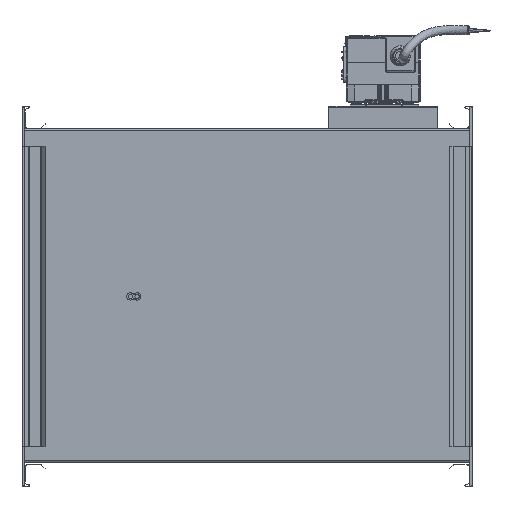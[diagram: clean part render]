
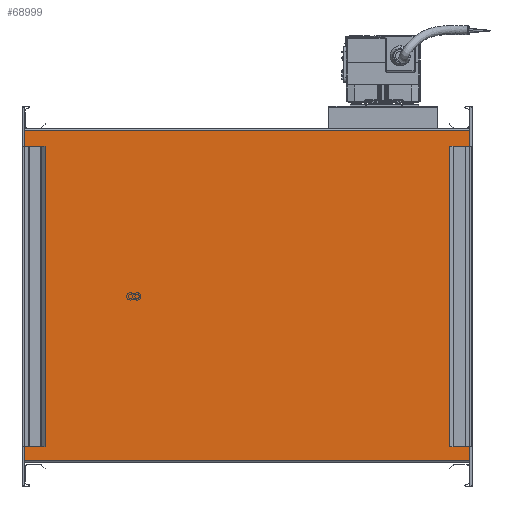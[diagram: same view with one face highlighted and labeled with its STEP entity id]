
A CAD part, front view. The second image highlights one B-rep face of the part: STEP entity #68999.
In plain terms, the highlighted planar face has unit normal (0, -1, 0).
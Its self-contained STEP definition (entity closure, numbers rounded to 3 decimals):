
#3340 = VECTOR ( 'NONE', #57874, 1000. ) ;
#6798 = ORIENTED_EDGE ( 'NONE', *, *, #35433, .F. ) ;
#7502 = LINE ( 'NONE', #84291, #55163 ) ;
#12227 = CARTESIAN_POINT ( 'NONE',  ( -244.423, -85.848, 952. ) ) ;
#12691 = FACE_OUTER_BOUND ( 'NONE', #14484, .T. ) ;
#12901 = VERTEX_POINT ( 'NONE', #57231 ) ;
#14484 = EDGE_LOOP ( 'NONE', ( #6798, #27681, #42853, #45598 ) ) ;
#18195 = CARTESIAN_POINT ( 'NONE',  ( 155.577, -85.848, 952. ) ) ;
#18774 = DIRECTION ( 'NONE',  ( 0., -1., 0. ) ) ;
#20177 = DIRECTION ( 'NONE',  ( 1., 0., 0. ) ) ;
#21808 = CARTESIAN_POINT ( 'NONE',  ( 155.577, -85.848, 952. ) ) ;
#24602 = CARTESIAN_POINT ( 'NONE',  ( -244.423, -85.848, 1248. ) ) ;
#27231 = PLANE ( 'NONE',  #51819 ) ;
#27681 = ORIENTED_EDGE ( 'NONE', *, *, #48263, .F. ) ;
#30591 = EDGE_CURVE ( 'NONE', #42638, #83841, #7502, .T. ) ;
#31684 = LINE ( 'NONE', #24602, #64186 ) ;
#33012 = CARTESIAN_POINT ( 'NONE',  ( -244.423, -85.848, 952. ) ) ;
#33834 = DIRECTION ( 'NONE',  ( 0., 0., -1. ) ) ;
#34277 = EDGE_CURVE ( 'NONE', #87377, #42638, #57962, .T. ) ;
#35433 = EDGE_CURVE ( 'NONE', #12901, #83841, #42951, .T. ) ;
#35571 = DIRECTION ( 'NONE',  ( 0., 0., -1. ) ) ;
#42638 = VERTEX_POINT ( 'NONE', #33012 ) ;
#42853 = ORIENTED_EDGE ( 'NONE', *, *, #34277, .T. ) ;
#42951 = LINE ( 'NONE', #21808, #3340 ) ;
#45598 = ORIENTED_EDGE ( 'NONE', *, *, #30591, .T. ) ;
#46186 = DIRECTION ( 'NONE',  ( 1., 0., 0. ) ) ;
#48263 = EDGE_CURVE ( 'NONE', #87377, #12901, #31684, .T. ) ;
#51819 = AXIS2_PLACEMENT_3D ( 'NONE', #12227, #18774, #33834 ) ;
#55163 = VECTOR ( 'NONE', #20177, 1000. ) ;
#57231 = CARTESIAN_POINT ( 'NONE',  ( 155.577, -85.848, 1248. ) ) ;
#57874 = DIRECTION ( 'NONE',  ( 0., 0., -1. ) ) ;
#57962 = LINE ( 'NONE', #63586, #85435 ) ;
#63586 = CARTESIAN_POINT ( 'NONE',  ( -244.423, -85.848, 952. ) ) ;
#64186 = VECTOR ( 'NONE', #46186, 1000. ) ;
#68999 = ADVANCED_FACE ( 'NONE', ( #12691 ), #27231, .T. ) ;
#83841 = VERTEX_POINT ( 'NONE', #18195 ) ;
#84291 = CARTESIAN_POINT ( 'NONE',  ( -244.423, -85.848, 952. ) ) ;
#85435 = VECTOR ( 'NONE', #35571, 1000. ) ;
#87377 = VERTEX_POINT ( 'NONE', #89536 ) ;
#89536 = CARTESIAN_POINT ( 'NONE',  ( -244.423, -85.848, 1248. ) ) ;
